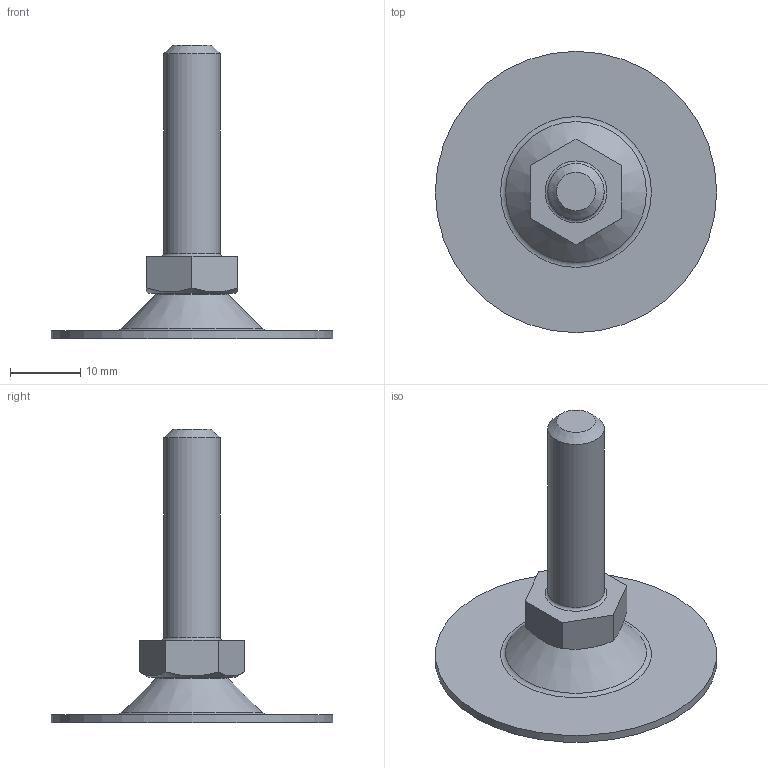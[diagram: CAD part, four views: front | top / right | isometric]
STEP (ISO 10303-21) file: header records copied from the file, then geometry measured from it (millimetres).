
FILE_DESCRIPTION(('STEP AP203'), '1');
FILE_NAME('A00050.1040816', '', ('UNSPECIFIED'), ('UNSPECIFIED'), 'C3D Converter', 'C3D Toolkit', '');
FILE_SCHEMA(('CONFIG_CONTROL_DESIGN'));
Length unit declared in the file: millimetre
Products named in the file (4): A00050.1040830; A00050.1040
Assembly tree (3 placements, depth 2):
  A00050.1040830
    A00050.1040
    (unnamed)
    (unnamed)
Bounding box: 40 x 40 x 41.78 mm (x, y, z)
Volume: 3925.1 mm3; surface area: 4530 mm2
Topology: 3 solids, 3 shells, 58 faces, 130 edges, 82 vertices
Faces by surface type: plane 28, torus 8, bspline 8, cone 7, cylinder 6, sphere 1
Full cylindrical faces by diameter (mm): 3.3 x1, 4 x1, 4.5 x1, 8 x2, 40 x1
Entity records: 2171 total; most frequent: CARTESIAN_POINT 784, DIRECTION 242, ORIENTED_EDGE 214, EDGE_CURVE 107, AXIS2_PLACEMENT_3D 95, EDGE_LOOP 86, VERTEX_POINT 81, ADVANCED_FACE 58
